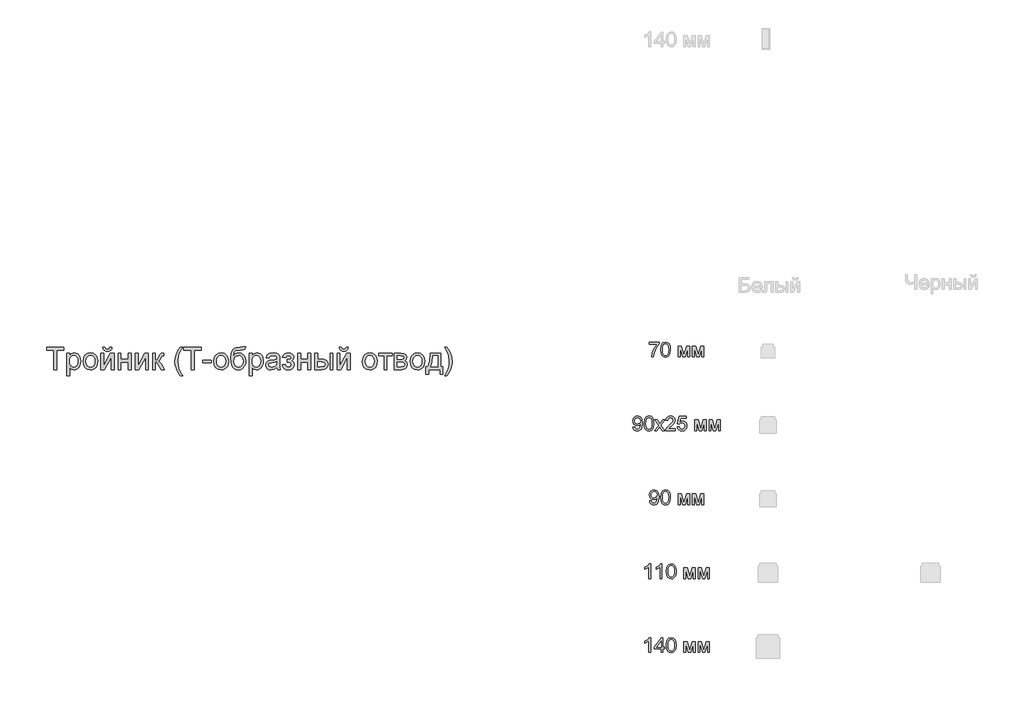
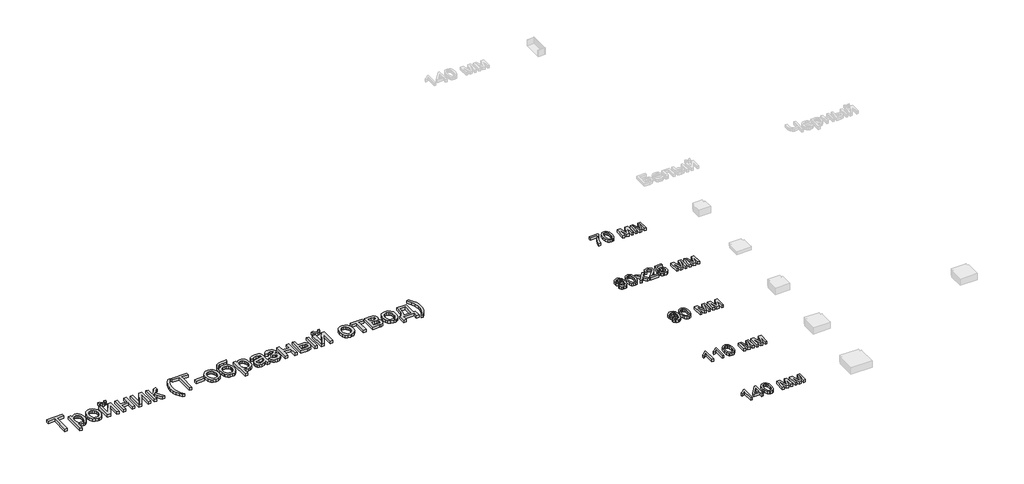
# One storey, part 8 of 48: 6 proxies.
"""IFC4 building model written with IfcOpenShell, lengths in millimetres."""

from ifc_helpers import new_model, si_unit, origin, origin_with_axes, place, context, project, spatial, polyline, outline, extrude, element, save

model = new_model("IFC4")

# Units and contexts
model_context = context("Model", 3, world=origin())
ifc_project = project(units=[si_unit("LENGTHUNIT", "METRE", prefix="MILLI")], contexts=[model_context])

# Site, building, storey
site = spatial("IfcSite", under=ifc_project)
building = spatial("IfcBuilding", under=site)
storey = spatial("IfcBuildingStorey", under=building, Name="Этаж 01", Elevation=0.0)

# Proxies
placement = place(None, origin())
element("IfcBuildingElementProxy", 1, Name="150 мм Arial", ObjectType="150 мм Arial", at=placement, inside=storey, context=model_context, shape_type="SweptSolid", body=[
    extrude(outline(polyline([(8172.5141681, -21751.7435087), (8172.5141681, -21619.8946017), (8123.070828, -21619.8946017), (8123.070828, -21601.0590435), (8240.7930664, -21601.0590435), (8240.7930664, -21619.8946017), (8191.3497263, -21619.8946017), (8191.3497263, -21751.7435087), (8172.5141681, -21751.7435087)])), origin_with_axes(), (0.0, 0.0, 1.0), 20.0),
    extrude(outline(polyline([(8259.6286246, -21794.1235146), (8259.6286246, -21641.0846046), (8278.4641827, -21641.0846046), (8278.4641827, -21659.5522807), (8291.4872054, -21643.93569), (8309.0719647, -21638.7301598), (8321.8098788, -21640.5511757), (8332.9475062, -21646.0142233), (8342.0157974, -21654.7882089), (8348.5457028, -21666.5420386), (8353.8064153, -21695.5679281), (8352.3210918, -21711.6765609), (8347.8651211, -21726.0837396), (8340.5810576, -21738.0582985), (8330.6114555, -21746.8690723), (8319.0001801, -21752.2907332), (8306.7910964, -21754.0979535), (8290.4019535, -21749.2603053), (8278.4641827, -21737.0282289), (8278.4641827, -21794.1235146), (8259.6286246, -21794.1235146)]), holes=[polyline([(8278.4641827, -21697.2969734), (8280.5013293, -21714.182757), (8286.6127689, -21725.9917691), (8295.6304763, -21732.9447388), (8306.3864262, -21735.2623953), (8317.3171199, -21732.8619653), (8326.5647536, -21725.6606753), (8332.8693313, -21713.4194019), (8334.9708572, -21695.8990219), (8332.9199151, -21679.1052088), (8326.7670887, -21667.1306498), (8317.7631769, -21659.9569509), (8307.1589784, -21657.565718), (8296.5133931, -21660.1087023), (8287.1645919, -21667.7376551), (8280.639285, -21680.2134533), (8278.4641827, -21697.2969734)])]), origin_with_axes(), (0.0, 0.0, 1.0), 20.0),
    extrude(outline(polyline([(8370.2875287, -21696.4140566), (8374.3618218, -21669.7334149), (8386.5847011, -21650.9806302), (8401.686257, -21641.7927774), (8419.7676571, -21638.7301598), (8439.5551099, -21642.4595635), (8455.3602401, -21653.6477747), (8465.7207168, -21671.4118766), (8469.174209, -21694.8689523), (8467.6474987, -21713.8976485), (8463.0673679, -21728.383002), (8455.5671737, -21739.2309224), (8445.2802734, -21747.3473189), (8433.0619927, -21752.4102948), (8419.7676571, -21754.0979535), (8399.741081, -21750.3823453), (8383.9543448, -21739.2355209), (8373.7042328, -21721.0989385), (8370.2875287, -21696.4140566)]), holes=[polyline([(8389.1230869, -21696.3772685), (8391.3027877, -21713.4240004), (8397.8418902, -21725.5687048), (8407.6827335, -21732.8389727), (8419.7676571, -21735.2623953), (8431.7973983, -21732.8251771), (8441.6198476, -21725.5135225), (8448.1589501, -21713.2078697), (8450.3386509, -21695.7886573), (8448.1451545, -21679.238566), (8441.5646653, -21667.2594085), (8431.7284204, -21659.9891406), (8419.7676571, -21657.565718), (8407.6827335, -21659.9799436), (8397.8418902, -21667.2226203), (8391.3027877, -21679.3397335), (8389.1230869, -21696.3772685)])]), origin_with_axes(), (0.0, 0.0, 1.0), 20.0),
    extrude(outline(polyline([(8551.5797759, -21601.0590435), (8565.7064446, -21601.0590435), (8562.6668196, -21613.1209744), (8556.564577, -21622.0099231), (8547.6756283, -21627.4867663), (8536.2758849, -21629.3123807), (8523.9058529, -21627.5005619), (8514.3133298, -21622.0651054), (8507.7558333, -21613.1899523), (8504.4908806, -21601.0590435), (8518.6175492, -21601.0590435), (8523.9150499, -21611.6724391), (8534.5836278, -21615.1857121), (8546.2822752, -21611.7828037), (8551.5797759, -21601.0590435)])), origin_with_axes(), (0.0, 0.0, 1.0), 20.0),
    extrude(outline(polyline([(8490.3642119, -21641.0846046), (8509.1997701, -21641.0846046), (8509.1997701, -21725.4767343), (8555.4793251, -21641.0846046), (8579.8331132, -21641.0846046), (8579.8331132, -21751.7435087), (8560.997555, -21751.7435087), (8560.997555, -21667.8664138), (8515.0123056, -21751.7435087), (8490.3642119, -21751.7435087), (8490.3642119, -21641.0846046)])), origin_with_axes(), (0.0, 0.0, 1.0), 20.0),
    extrude(outline(polyline([(8608.0864504, -21641.0846046), (8626.9220086, -21641.0846046), (8626.9220086, -21683.4646104), (8676.3653487, -21683.4646104), (8676.3653487, -21641.0846046), (8695.2009069, -21641.0846046), (8695.2009069, -21751.7435087), (8676.3653487, -21751.7435087), (8676.3653487, -21702.3001686), (8626.9220086, -21702.3001686), (8626.9220086, -21751.7435087), (8608.0864504, -21751.7435087), (8608.0864504, -21641.0846046)])), origin_with_axes(), (0.0, 0.0, 1.0), 20.0),
    extrude(outline(polyline([(8723.4542441, -21641.0846046), (8742.2898022, -21641.0846046), (8742.2898022, -21725.4767343), (8788.5693572, -21641.0846046), (8812.9231453, -21641.0846046), (8812.9231453, -21751.7435087), (8794.0875872, -21751.7435087), (8794.0875872, -21667.8664138), (8748.1023378, -21751.7435087), (8723.4542441, -21751.7435087), (8723.4542441, -21641.0846046)])), origin_with_axes(), (0.0, 0.0, 1.0), 20.0),
    extrude(outline(polyline([(8841.1764825, -21641.0846046), (8860.0120407, -21641.0846046), (8860.0120407, -21688.1735), (8872.6303931, -21684.7889856), (8882.9678772, -21665.0705107), (8891.5579218, -21648.0559684), (8899.1362909, -21642.5193444), (8912.9134716, -21641.0846046), (8916.5187152, -21641.0846046), (8916.5187152, -21660.0305273), (8911.4419436, -21659.9201627), (8902.2448937, -21661.9067255), (8895.7701706, -21674.3043487), (8888.1734074, -21687.7136475), (8877.5232237, -21694.2803411), (8889.4058121, -21701.6103898), (8901.0676714, -21717.0522366), (8921.2276047, -21751.7435087), (8899.8168726, -21751.7435087), (8880.0616094, -21717.7880006), (8870.1287956, -21703.4222087), (8860.0120407, -21699.9457238), (8860.0120407, -21751.7435087), (8841.1764825, -21751.7435087), (8841.1764825, -21641.0846046)])), origin_with_axes(), (0.0, 0.0, 1.0), 20.0),
    extrude(outline(polyline([(9029.5320641, -21794.1235146), (9014.9363459, -21773.6416845), (9002.787043, -21749.9408869), (8994.5924716, -21724.1707532), (8991.8609478, -21697.4809144), (8993.9026928, -21674.0744225), (9000.0279281, -21651.679606), (9012.186428, -21626.3141425), (9029.5320641, -21601.0590435), (9043.6587327, -21601.0590435), (9026.0371851, -21630.8942733), (9015.4421837, -21659.8097981), (9010.6965059, -21697.591279), (9012.7566451, -21721.7381335), (9018.9370626, -21745.8757909), (9029.2377585, -21770.0042513), (9043.6587327, -21794.1235146), (9029.5320641, -21794.1235146)])), origin_with_axes(), (0.0, 0.0, 1.0), 20.0),
    extrude(outline(polyline([(9102.5198519, -21751.7435087), (9102.5198519, -21619.8946017), (9053.0765118, -21619.8946017), (9053.0765118, -21601.0590435), (9170.7987502, -21601.0590435), (9170.7987502, -21619.8946017), (9121.3554101, -21619.8946017), (9121.3554101, -21751.7435087), (9102.5198519, -21751.7435087)])), origin_with_axes(), (0.0, 0.0, 1.0), 20.0),
    extrude(outline(polyline([(9180.2165293, -21707.0090581), (9180.2165293, -21688.1735), (9239.0776485, -21688.1735), (9239.0776485, -21707.0090581), (9180.2165293, -21707.0090581)])), origin_with_axes(), (0.0, 0.0, 1.0), 20.0),
    extrude(outline(polyline([(9255.5587619, -21696.4140566), (9259.633055, -21669.7334149), (9271.8559343, -21650.9806302), (9286.9574902, -21641.7927774), (9305.0388903, -21638.7301598), (9324.8263431, -21642.4595635), (9340.6314733, -21653.6477747), (9350.99195, -21671.4118766), (9354.4454422, -21694.8689523), (9352.9187319, -21713.8976485), (9348.3386011, -21728.383002), (9340.8384069, -21739.2309224), (9330.5515066, -21747.3473189), (9318.3332259, -21752.4102948), (9305.0388903, -21754.0979535), (9285.0123142, -21750.3823453), (9269.225578, -21739.2355209), (9258.9754659, -21721.0989385), (9255.5587619, -21696.4140566)]), holes=[polyline([(9274.3943201, -21696.3772685), (9276.5740209, -21713.4240004), (9283.1131234, -21725.5687048), (9292.9539667, -21732.8389727), (9305.0388903, -21735.2623953), (9317.0686315, -21732.8251771), (9326.8910808, -21725.5135225), (9333.4301832, -21713.2078697), (9335.6098841, -21695.7886573), (9333.4163877, -21679.238566), (9326.8358985, -21667.2594085), (9316.9996536, -21659.9891406), (9305.0388903, -21657.565718), (9292.9539667, -21659.9799436), (9283.1131234, -21667.2226203), (9276.5740209, -21679.3397335), (9274.3943201, -21696.3772685)])]), origin_with_axes(), (0.0, 0.0, 1.0), 20.0),
    extrude(outline(polyline([(9453.3321225, -21598.7045987), (9469.8132359, -21598.7045987), (9464.9571936, -21613.4014844), (9455.3554735, -21618.7173793), (9432.2892724, -21619.8946017), (9401.2216379, -21624.2356092), (9394.0939243, -21629.8825978), (9389.3022613, -21638.1415486), (9385.2739534, -21662.7528541), (9401.5895199, -21644.7266363), (9411.5085382, -21640.2292789), (9422.6139759, -21638.7301598), (9442.2128892, -21642.542337), (9458.1145885, -21653.9788685), (9468.6544076, -21671.9177143), (9472.1676807, -21695.2368343), (9470.4248397, -21713.2170668), (9465.1963169, -21727.647238), (9448.6600212, -21747.2001661), (9437.3660439, -21752.3735066), (9422.6139759, -21754.0979535), (9405.6132292, -21751.8768659), (9392.8707166, -21745.2136033), (9383.4943243, -21735.0876514), (9376.5919383, -21722.478496), (9372.3429013, -21703.4911865), (9370.9265556, -21674.2307723), (9374.4996095, -21638.0909648), (9385.2187711, -21616.0502348), (9403.350755, -21604.8068413), (9429.1622754, -21601.0590435), (9450.1315492, -21600.6359792), (9453.3321225, -21598.7045987)]), holes=[polyline([(9453.3321225, -21694.6482231), (9451.2903775, -21679.8271772), (9445.1651422, -21667.9583843), (9435.3242989, -21660.1638846), (9422.1357293, -21657.565718), (9408.3861398, -21660.3110373), (9398.1866114, -21668.5469955), (9391.8682382, -21681.3722816), (9389.7621138, -21697.8855846), (9392.0889674, -21713.8930499), (9399.0695282, -21725.6422812), (9409.4621946, -21732.8573668), (9422.0253647, -21735.2623953), (9434.6529142, -21732.4802878), (9444.6501074, -21724.133965), (9451.1616188, -21711.1983143), (9453.3321225, -21694.6482231)])]), origin_with_axes(), (0.0, 0.0, 1.0), 20.0),
    extrude(outline(polyline([(9495.7121284, -21794.1235146), (9495.7121284, -21641.0846046), (9514.5476865, -21641.0846046), (9514.5476865, -21659.5522807), (9527.5707092, -21643.93569), (9545.1554685, -21638.7301598), (9557.8933826, -21640.5511757), (9569.03101, -21646.0142233), (9578.0993012, -21654.7882089), (9584.6292066, -21666.5420386), (9589.8899191, -21695.5679281), (9588.4045956, -21711.6765609), (9583.9486249, -21726.0837396), (9576.6645614, -21738.0582985), (9566.6949593, -21746.8690723), (9555.0836839, -21752.2907332), (9542.8746001, -21754.0979535), (9526.4854573, -21749.2603053), (9514.5476865, -21737.0282289), (9514.5476865, -21794.1235146), (9495.7121284, -21794.1235146)]), holes=[polyline([(9514.5476865, -21697.2969734), (9516.5848331, -21714.182757), (9522.6962727, -21725.9917691), (9531.7139801, -21732.9447388), (9542.46993, -21735.2623953), (9553.4006237, -21732.8619653), (9562.6482574, -21725.6606753), (9568.9528351, -21713.4194019), (9571.054361, -21695.8990219), (9569.0034189, -21679.1052088), (9562.8505925, -21667.1306498), (9553.8466807, -21659.9569509), (9543.2424821, -21657.565718), (9532.5968969, -21660.1087023), (9523.2480957, -21667.7376551), (9516.7227888, -21680.2134533), (9514.5476865, -21697.2969734)])]), origin_with_axes(), (0.0, 0.0, 1.0), 20.0),
    extrude(outline(polyline([(9681.7132651, -21737.6168401), (9663.4479241, -21750.3823453), (9643.2695966, -21754.0979535), (9627.5288458, -21751.8630704), (9615.9175703, -21745.158421), (9608.757667, -21734.9772868), (9606.3710325, -21722.3129491), (9609.9762761, -21707.4137283), (9619.4492374, -21696.5979976), (9632.637807, -21690.4175801), (9648.9349794, -21687.5848888), (9681.6029005, -21681.1101657), (9681.7132651, -21676.9163109), (9680.4164811, -21668.5102073), (9676.526129, -21663.0103715), (9667.8257198, -21658.9268813), (9655.7040081, -21657.565718), (9636.6477207, -21661.1893556), (9627.5610354, -21674.0468313), (9608.7254773, -21671.6923866), (9616.8740635, -21653.2982868), (9633.2816005, -21642.5193444), (9658.1320292, -21638.7301598), (9680.959107, -21642.077886), (9693.853371, -21650.4839896), (9699.6291183, -21663.2678889), (9700.5488233, -21679.7490023), (9700.5488233, -21703.1830854), (9701.5053165, -21735.9061888), (9705.2577128, -21751.7435087), (9686.4221547, -21751.7435087), (9681.7132651, -21737.6168401)]), holes=[polyline([(9681.7132651, -21699.9457238), (9651.3262123, -21705.7214711), (9635.1210104, -21708.7748917), (9627.7817646, -21713.7412986), (9625.2065907, -21720.9885739), (9630.8167911, -21731.1789052), (9647.2795104, -21735.2623953), (9666.3357977, -21730.7558409), (9678.6230564, -21719.8481397), (9681.6029005, -21705.2800127), (9681.7132651, -21699.9457238)])]), origin_with_axes(), (0.0, 0.0, 1.0), 20.0),
    extrude(outline(polyline([(9752.3466082, -21702.3001686), (9752.3466082, -21683.4646104), (9767.2090408, -21682.7288464), (9774.7138335, -21678.8109032), (9778.2455007, -21670.6255288), (9773.518217, -21661.1157792), (9761.3229289, -21657.565718), (9748.7229706, -21661.0973851), (9740.5743844, -21671.6923866), (9719.3843814, -21669.3379418), (9725.0037789, -21655.9470372), (9733.5478382, -21646.3821053), (9745.0165594, -21640.6431462), (9759.4099425, -21638.7301598), (9775.1552919, -21641.061612), (9787.0746685, -21648.0559684), (9794.5794612, -21658.2876864), (9797.0810588, -21670.3312232), (9793.5218005, -21682.0298706), (9782.8440256, -21691.0797677), (9795.2968311, -21702.8152034), (9799.4355036, -21719.7009869), (9796.8097458, -21733.5655396), (9788.9324726, -21744.5514157), (9776.3371128, -21751.711319), (9759.5570953, -21754.0979535), (9743.1449598, -21751.8906615), (9730.5863882, -21745.2687856), (9721.8813805, -21734.2323258), (9717.0299367, -21718.781282), (9738.2199396, -21716.4268372), (9746.7180137, -21730.3327766), (9761.3597171, -21735.2623953), (9775.1185037, -21730.5351117), (9780.5999454, -21718.4501882), (9777.197037, -21708.5541625), (9769.9497617, -21703.2566618), (9756.0254282, -21702.189804), (9752.3466082, -21702.3001686)])), origin_with_axes(), (0.0, 0.0, 1.0), 20.0),
    extrude(outline(polyline([(9822.9799513, -21641.0846046), (9841.8155094, -21641.0846046), (9841.8155094, -21683.4646104), (9891.2588496, -21683.4646104), (9891.2588496, -21641.0846046), (9910.0944077, -21641.0846046), (9910.0944077, -21751.7435087), (9891.2588496, -21751.7435087), (9891.2588496, -21702.3001686), (9841.8155094, -21702.3001686), (9841.8155094, -21751.7435087), (9822.9799513, -21751.7435087), (9822.9799513, -21641.0846046)])), origin_with_axes(), (0.0, 0.0, 1.0), 20.0),
    extrude(outline(polyline([(10041.9433148, -21641.0846046), (10060.778873, -21641.0846046), (10060.778873, -21751.7435087), (10041.9433148, -21751.7435087), (10041.9433148, -21641.0846046)])), origin_with_axes(), (0.0, 0.0, 1.0), 20.0),
    extrude(outline(polyline([(9938.347745, -21641.0846046), (9957.1833031, -21641.0846046), (9957.1833031, -21681.1101657), (9980.4702334, -21681.1101657), (10000.5979771, -21683.4692089), (10015.5109935, -21690.5463388), (10024.740233, -21701.7713382), (10027.8166462, -21716.57399), (10025.2368737, -21730.0522666), (10017.4975562, -21741.4244188), (10004.092856, -21749.1637362), (9984.5169354, -21751.7435087), (9938.347745, -21751.7435087), (9938.347745, -21641.0846046)]), holes=[polyline([(9957.1833031, -21732.9079506), (9976.5338961, -21732.9079506), (10001.5130835, -21728.9532191), (10007.1140869, -21723.8902432), (10008.981088, -21716.6107782), (10003.444464, -21705.0224953), (9994.5647124, -21701.2149167), (9978.9987054, -21699.9457238), (9957.1833031, -21699.9457238), (9957.1833031, -21732.9079506)])]), origin_with_axes(), (0.0, 0.0, 1.0), 20.0),
    extrude(outline(polyline([(10089.0322102, -21641.0846046), (10107.8677683, -21641.0846046), (10107.8677683, -21725.4767343), (10154.1473233, -21641.0846046), (10178.5011114, -21641.0846046), (10178.5011114, -21751.7435087), (10159.6655533, -21751.7435087), (10159.6655533, -21667.8664138), (10113.6803039, -21751.7435087), (10089.0322102, -21751.7435087), (10089.0322102, -21641.0846046)])), origin_with_axes(), (0.0, 0.0, 1.0), 20.0),
    extrude(outline(polyline([(10150.2477742, -21601.0590435), (10164.3744428, -21601.0590435), (10161.3348178, -21613.1209744), (10155.2325752, -21622.0099231), (10146.3436265, -21627.4867663), (10134.9438832, -21629.3123807), (10122.5738511, -21627.5005619), (10112.9813281, -21622.0651054), (10106.4238315, -21613.1899523), (10103.1588788, -21601.0590435), (10117.2855474, -21601.0590435), (10122.5830481, -21611.6724391), (10133.251626, -21615.1857121), (10144.9502735, -21611.7828037), (10150.2477742, -21601.0590435)])), origin_with_axes(), (0.0, 0.0, 1.0), 20.0),
    extrude(outline(polyline([(10260.9066783, -21696.4140566), (10264.9809714, -21669.7334149), (10277.2038507, -21650.9806302), (10292.3054066, -21641.7927774), (10310.3868067, -21638.7301598), (10330.1742595, -21642.4595635), (10345.9793897, -21653.6477747), (10356.3398664, -21671.4118766), (10359.7933586, -21694.8689523), (10358.2666484, -21713.8976485), (10353.6865175, -21728.383002), (10346.1863233, -21739.2309224), (10335.8994231, -21747.3473189), (10323.6811423, -21752.4102948), (10310.3868067, -21754.0979535), (10290.3602306, -21750.3823453), (10274.5734945, -21739.2355209), (10264.3233824, -21721.0989385), (10260.9066783, -21696.4140566)]), holes=[polyline([(10279.7422365, -21696.3772685), (10281.9219373, -21713.4240004), (10288.4610398, -21725.5687048), (10298.3018831, -21732.8389727), (10310.3868067, -21735.2623953), (10322.4165479, -21732.8251771), (10332.2389972, -21725.5135225), (10338.7780997, -21713.2078697), (10340.9578005, -21695.7886573), (10338.7643041, -21679.238566), (10332.1838149, -21667.2594085), (10322.3475701, -21659.9891406), (10310.3868067, -21657.565718), (10298.3018831, -21659.9799436), (10288.4610398, -21667.2226203), (10281.9219373, -21679.3397335), (10279.7422365, -21696.3772685)])]), origin_with_axes(), (0.0, 0.0, 1.0), 20.0),
    extrude(outline(polyline([(10371.5655825, -21641.0846046), (10461.0344837, -21641.0846046), (10461.0344837, -21659.9201627), (10425.7178122, -21659.9201627), (10425.7178122, -21751.7435087), (10406.882254, -21751.7435087), (10406.882254, -21659.9201627), (10371.5655825, -21659.9201627), (10371.5655825, -21641.0846046)])), origin_with_axes(), (0.0, 0.0, 1.0), 20.0),
    extrude(outline(polyline([(10477.5155971, -21641.0846046), (10519.0126862, -21641.0846046), (10541.7661876, -21643.6045962), (10554.568481, -21652.8384343), (10559.921164, -21668.9332716), (10556.6838025, -21682.0114765), (10546.9349296, -21691.3372851), (10559.5900702, -21701.5460105), (10564.6300536, -21719.2963167), (10561.4386772, -21733.6529116), (10553.8511111, -21743.7604694), (10541.839764, -21749.7477489), (10525.3770447, -21751.7435087), (10477.5155971, -21751.7435087), (10477.5155971, -21641.0846046)]), holes=[polyline([(10496.3511552, -21683.4646104), (10514.9659842, -21683.4646104), (10530.3250575, -21682.5081172), (10537.793062, -21678.6821445), (10541.0856059, -21671.765963), (10539.641669, -21666.1465655), (10535.3098585, -21662.5321249), (10515.5545954, -21659.9201627), (10496.3511552, -21659.9201627), (10496.3511552, -21683.4646104)]), polyline([(10496.3511552, -21732.9079506), (10519.4541445, -21732.9079506), (10539.9451717, -21729.5050421), (10544.1850117, -21724.8651305), (10545.7944954, -21717.7512124), (10542.5755279, -21708.6829212), (10534.1878185, -21703.4038146), (10517.6147346, -21702.3001686), (10496.3511552, -21702.3001686), (10496.3511552, -21732.9079506)])]), origin_with_axes(), (0.0, 0.0, 1.0), 20.0),
    extrude(outline(polyline([(10583.4656117, -21696.4140566), (10587.5399048, -21669.7334149), (10599.7627841, -21650.9806302), (10614.86434, -21641.7927774), (10632.9457401, -21638.7301598), (10652.7331929, -21642.4595635), (10668.5383231, -21653.6477747), (10678.8987998, -21671.4118766), (10682.352292, -21694.8689523), (10680.8255817, -21713.8976485), (10676.2454509, -21728.383002), (10668.7452567, -21739.2309224), (10658.4583564, -21747.3473189), (10646.2400757, -21752.4102948), (10632.9457401, -21754.0979535), (10612.9191639, -21750.3823453), (10597.1324278, -21739.2355209), (10586.8823157, -21721.0989385), (10583.4656117, -21696.4140566)]), holes=[polyline([(10602.3011699, -21696.3772685), (10604.4808707, -21713.4240004), (10611.0199731, -21725.5687048), (10620.8608165, -21732.8389727), (10632.9457401, -21735.2623953), (10644.9754813, -21732.8251771), (10654.7979306, -21725.5135225), (10661.337033, -21713.2078697), (10663.5167339, -21695.7886573), (10661.3232375, -21679.238566), (10654.7427483, -21667.2594085), (10644.9065034, -21659.9891406), (10632.9457401, -21657.565718), (10620.8608165, -21659.9799436), (10611.0199731, -21667.2226203), (10604.4808707, -21679.3397335), (10602.3011699, -21696.3772685)])]), origin_with_axes(), (0.0, 0.0, 1.0), 20.0),
    extrude(outline(polyline([(10720.0234083, -21641.0846046), (10790.6567514, -21641.0846046), (10790.6567514, -21732.9079506), (10804.78342, -21732.9079506), (10804.78342, -21782.3512907), (10785.9478619, -21782.3512907), (10785.9478619, -21751.7435087), (10708.2511845, -21751.7435087), (10708.2511845, -21782.3512907), (10689.4156263, -21782.3512907), (10689.4156263, -21732.9079506), (10701.1878502, -21732.9079506), (10709.7457051, -21717.4431112), (10715.7375831, -21696.9842737), (10720.0234083, -21641.0846046)]), holes=[polyline([(10736.5045217, -21659.9201627), (10732.0899378, -21702.8335975), (10722.3778531, -21732.9079506), (10771.8211932, -21732.9079506), (10771.8211932, -21659.9201627), (10736.5045217, -21659.9201627)])]), origin_with_axes(), (0.0, 0.0, 1.0), 20.0),
    extrude(outline(polyline([(10830.6823125, -21794.1235146), (10816.5556439, -21794.1235146), (10830.9766181, -21770.0042513), (10841.2773139, -21745.8757909), (10847.4577314, -21721.7381335), (10849.5178706, -21697.591279), (10844.7721929, -21660.1408919), (10834.287556, -21631.1885789), (10816.5556439, -21601.0590435), (10830.6823125, -21601.0590435), (10848.0279485, -21626.3141425), (10860.1864485, -21651.679606), (10866.3116837, -21674.0744225), (10868.3534288, -21697.4809144), (10865.6081094, -21724.1707532), (10857.3721512, -21749.9408869), (10845.2090528, -21773.6416845), (10830.6823125, -21794.1235146)])), origin_with_axes(), (0.0, 0.0, 1.0), 20.0),
])
element("IfcBuildingElementProxy", 2, Name="100 мм Arial", ObjectType="100 мм Arial", at=placement, inside=storey, context=model_context, shape_type="SweptSolid", body=[
    extrude(outline(polyline([(12202.0597089, -21580.1192443), (12202.0597089, -21567.5622055), (12267.9841625, -21567.5622055), (12267.9841625, -21577.7157486), (12249.2834944, -21604.7305498), (12234.9728848, -21639.1520418), (12230.3130462, -21666.4488858), (12217.7560074, -21666.4488858), (12222.7469398, -21638.1219722), (12236.4444127, -21606.1039759), (12255.4271237, -21580.1192443), (12202.0597089, -21580.1192443)])), origin_with_axes(), (0.0, 0.0, 1.0), 20.0),
    extrude(outline(polyline([(12278.9715714, -21617.0300711), (12282.6626541, -21588.126809), (12293.6255375, -21571.4617547), (12311.9337982, -21565.9925757), (12326.600027, -21569.2299372), (12336.7290446, -21578.5618772), (12342.6151566, -21593.4243098), (12344.8960249, -21617.0300711), (12341.2417304, -21645.8107059), (12330.3156352, -21662.5125485), (12322.0842755, -21666.6420239), (12311.9337982, -21668.0185157), (12298.8862501, -21665.6272827), (12288.9779617, -21658.4535838), (12281.473169, -21641.463567), (12278.9715714, -21617.0300711)]), holes=[polyline([(12291.5286102, -21617.0055457), (12293.0001381, -21636.7577431), (12297.4147221, -21648.1896761), (12303.9875471, -21653.6435267), (12311.9337982, -21655.4614769), (12319.8800493, -21653.6373953), (12326.4528742, -21648.1651507), (12330.8674582, -21636.7270863), (12332.3389862, -21617.0055457), (12330.9165091, -21597.6978723), (12326.649078, -21586.1770345), (12320.0885157, -21580.4564694), (12311.7866454, -21578.5496144), (12303.9262334, -21580.2296089), (12297.6109258, -21585.2695922), (12293.0491891, -21597.5077999), (12291.5286102, -21617.0055457)])]), origin_with_axes(), (0.0, 0.0, 1.0), 20.0),
    extrude(outline(polyline([(12398.2634397, -21592.6762831), (12419.8703755, -21592.6762831), (12436.5231672, -21651.733606), (12454.4758086, -21592.6762831), (12475.1753022, -21592.6762831), (12475.1753022, -21666.4488858), (12462.6182634, -21666.4488858), (12462.6182634, -21607.0482063), (12444.5675202, -21666.4488858), (12428.0864068, -21666.4488858), (12410.8204785, -21604.2032522), (12410.8204785, -21666.4488858), (12398.2634397, -21666.4488858), (12398.2634397, -21592.6762831)])), origin_with_axes(), (0.0, 0.0, 1.0), 20.0),
    extrude(outline(polyline([(12494.0108603, -21592.6762831), (12515.6177962, -21592.6762831), (12532.2705878, -21651.733606), (12550.2232292, -21592.6762831), (12570.9227228, -21592.6762831), (12570.9227228, -21666.4488858), (12558.365684, -21666.4488858), (12558.365684, -21607.0482063), (12540.3149408, -21666.4488858), (12523.8338274, -21666.4488858), (12506.5678991, -21604.2032522), (12506.5678991, -21666.4488858), (12494.0108603, -21666.4488858), (12494.0108603, -21592.6762831)])), origin_with_axes(), (0.0, 0.0, 1.0), 20.0),
])
element("IfcBuildingElementProxy", 3, Name="100 мм Arial", ObjectType="100 мм Arial", at=placement, inside=storey, context=model_context, shape_type="SweptSolid", body=[
    extrude(outline(polyline([(12091.4008048, -22141.3348083), (12103.9578436, -22139.7651784), (12109.5987008, -22151.7458687), (12120.2918041, -22155.4614769), (12130.4576099, -22153.0702439), (12137.349266, -22146.6813599), (12141.4572816, -22135.7675274), (12143.2721661, -22121.1994004), (12143.1985897, -22118.7468538), (12133.1554112, -22128.2627347), (12119.3843619, -22131.9170292), (12107.9340348, -22129.6852118), (12098.4028254, -22122.9897595), (12091.9740876, -22112.646144), (12089.8311749, -22099.4698372), (12092.0783208, -22085.8582034), (12098.8197584, -22075.1896256), (12108.9457103, -22068.2918381), (12121.3463992, -22065.9925757), (12139.2377269, -22071.2410255), (12151.549511, -22086.2015599), (12155.7556285, -22114.3077444), (12151.5617737, -22144.8051618), (12146.3470464, -22154.7962236), (12139.0905741, -22162.0833528), (12130.1050564, -22166.534725), (12119.7031929, -22168.0185157), (12108.9671701, -22166.2680105), (12100.4016509, -22161.016495), (12094.4113058, -22152.595063), (12091.4008048, -22141.3348083)]), holes=[polyline([(12143.1985897, -22099.1755316), (12141.8435577, -22090.6651948), (12137.7784616, -22084.1168953), (12131.4692854, -22079.9414347), (12123.3820129, -22078.5496144), (12114.9943034, -22080.0487336), (12108.2743256, -22084.546091), (12103.8597417, -22091.42855), (12102.3882137, -22100.0829739), (12103.7800339, -22107.8422183), (12107.9554946, -22114.001176), (12114.5099254, -22118.0202868), (12123.0386564, -22119.3599904), (12137.5209442, -22114.001176), (12141.7791783, -22107.6153577), (12143.1985897, -22099.1755316)])]), origin_with_axes(), (0.0, 0.0, 1.0), 20.0),
    extrude(outline(polyline([(12166.7430374, -22117.0300711), (12170.4341201, -22088.126809), (12181.3970035, -22071.4617547), (12199.7052642, -22065.9925757), (12214.371493, -22069.2299372), (12224.5005106, -22078.5618772), (12230.3866226, -22093.4243098), (12232.6674909, -22117.0300711), (12229.0131964, -22145.8107059), (12218.0871012, -22162.5125485), (12209.8557415, -22166.6420239), (12199.7052642, -22168.0185157), (12186.6577161, -22165.6272827), (12176.7494277, -22158.4535838), (12169.244635, -22141.463567), (12166.7430374, -22117.0300711)]), holes=[polyline([(12179.3000762, -22117.0055457), (12180.7716041, -22136.7577431), (12185.1861881, -22148.1896761), (12191.7590131, -22153.6435267), (12199.7052642, -22155.4614769), (12207.6515153, -22153.6373953), (12214.2243402, -22148.1651507), (12218.6389242, -22136.7270863), (12220.1104522, -22117.0055457), (12218.6879751, -22097.6978723), (12214.420544, -22086.1770345), (12207.8599817, -22080.4564694), (12199.5581114, -22078.5496144), (12191.6976994, -22080.2296089), (12185.3823918, -22085.2695922), (12180.8206551, -22097.5077999), (12179.3000762, -22117.0055457)])]), origin_with_axes(), (0.0, 0.0, 1.0), 20.0),
    extrude(outline(polyline([(12238.9460103, -22166.4488858), (12265.7768705, -22129.3663807), (12240.5156402, -22092.6762831), (12255.6233274, -22092.6762831), (12267.8124842, -22110.3346188), (12273.5023924, -22118.6732774), (12278.4320111, -22111.8551977), (12292.3134251, -22092.6762831), (12307.4211124, -22092.6762831), (12280.8845578, -22129.3663807), (12306.4400937, -22166.4488858), (12291.3324064, -22166.4488858), (12275.954939, -22144.1552369), (12273.1345104, -22140.0840095), (12254.0536976, -22166.4488858), (12238.9460103, -22166.4488858)])), origin_with_axes(), (0.0, 0.0, 1.0), 20.0),
    extrude(outline(polyline([(12378.6430666, -22153.8918471), (12378.6430666, -22166.4488858), (12312.7186131, -22166.4488858), (12314.0675137, -22157.7913962), (12321.6949338, -22144.4618052), (12337.4157577, -22129.905941), (12359.0962699, -22108.9857182), (12364.516398, -22094.7609477), (12359.4028383, -22083.2462412), (12346.0487218, -22078.5496144), (12332.1305197, -22083.1358766), (12326.8452817, -22095.8155427), (12314.2882429, -22094.2459129), (12317.3324664, -22082.0996757), (12323.9144885, -22073.2275882), (12333.6909525, -22067.8013288), (12346.318502, -22065.9925757), (12359.038022, -22068.0036639), (12368.7960919, -22074.0369286), (12375.0041005, -22083.0500375), (12377.0734368, -22094.0006582), (12374.8416193, -22105.9077721), (12367.4226658, -22118.2195563), (12349.4332362, -22135.4241709), (12334.9877365, -22147.5029631), (12329.3223538, -22153.8918471), (12378.6430666, -22153.8918471)])), origin_with_axes(), (0.0, 0.0, 1.0), 20.0),
    extrude(outline(polyline([(12391.2001054, -22139.7651784), (12403.7571442, -22138.1955486), (12410.0847145, -22151.1327321), (12423.205839, -22155.4614769), (12432.2066851, -22153.9562264), (12438.9511884, -22149.4404749), (12443.1634372, -22142.4353886), (12444.5675202, -22133.4621336), (12439.3068076, -22118.55065), (12432.7002601, -22114.4487658), (12423.4020427, -22113.0814711), (12412.3778456, -22115.2642376), (12405.326774, -22120.9296203), (12392.7697352, -22119.3599904), (12403.7571442, -22067.5622055), (12452.4156694, -22067.5622055), (12452.4156694, -22080.1192443), (12413.9106872, -22080.1192443), (12408.5396101, -22107.7839703), (12417.5097994, -22102.3393168), (12426.9091844, -22100.5244323), (12438.6415543, -22102.7746438), (12448.3812302, -22109.5252784), (12454.9387267, -22119.8137116), (12457.1245589, -22132.6773187), (12455.1563902, -22145.2343574), (12449.2518842, -22155.9765117), (12437.9456442, -22165.0080147), (12423.156788, -22168.0185157), (12410.8235441, -22166.0840695), (12400.9980292, -22160.280731), (12394.262723, -22151.2829506), (12391.2001054, -22139.7651784)])), origin_with_axes(), (0.0, 0.0, 1.0), 20.0),
    extrude(outline(polyline([(12510.4919737, -22092.6762831), (12532.0989095, -22092.6762831), (12548.7517012, -22151.733606), (12566.7043426, -22092.6762831), (12587.4038361, -22092.6762831), (12587.4038361, -22166.4488858), (12574.8467974, -22166.4488858), (12574.8467974, -22107.0482063), (12556.7960541, -22166.4488858), (12540.3149408, -22166.4488858), (12523.0490125, -22104.2032522), (12523.0490125, -22166.4488858), (12510.4919737, -22166.4488858), (12510.4919737, -22092.6762831)])), origin_with_axes(), (0.0, 0.0, 1.0), 20.0),
    extrude(outline(polyline([(12606.2393943, -22092.6762831), (12627.8463301, -22092.6762831), (12644.4991218, -22151.733606), (12662.4517632, -22092.6762831), (12683.1512568, -22092.6762831), (12683.1512568, -22166.4488858), (12670.594218, -22166.4488858), (12670.594218, -22107.0482063), (12652.5434748, -22166.4488858), (12636.0623614, -22166.4488858), (12618.7964331, -22104.2032522), (12618.7964331, -22166.4488858), (12606.2393943, -22166.4488858), (12606.2393943, -22092.6762831)])), origin_with_axes(), (0.0, 0.0, 1.0), 20.0),
])
element("IfcBuildingElementProxy", 4, Name="100 мм Arial", ObjectType="100 мм Arial", at=placement, inside=storey, context=model_context, shape_type="SweptSolid", body=[
    extrude(outline(polyline([(12203.6293388, -22641.3348083), (12216.1863775, -22639.7651784), (12221.8272348, -22651.7458687), (12232.5203381, -22655.4614769), (12242.6861439, -22653.0702439), (12249.5778, -22646.6813599), (12253.6858156, -22635.7675274), (12255.5007001, -22621.1994004), (12255.4271237, -22618.7468538), (12245.3839452, -22628.2627347), (12231.6128959, -22631.9170292), (12220.1625688, -22629.6852118), (12210.6313594, -22622.9897595), (12204.2026216, -22612.646144), (12202.0597089, -22599.4698372), (12204.3068548, -22585.8582034), (12211.0482923, -22575.1896256), (12221.1742443, -22568.2918381), (12233.5749332, -22565.9925757), (12251.4662609, -22571.2410255), (12263.778045, -22586.2015599), (12267.9841625, -22614.3077444), (12263.7903077, -22644.8051618), (12258.5755804, -22654.7962236), (12251.3191081, -22662.0833528), (12242.3335904, -22666.534725), (12231.9317269, -22668.0185157), (12221.195704, -22666.2680105), (12212.6301849, -22661.016495), (12206.6398398, -22652.595063), (12203.6293388, -22641.3348083)]), holes=[polyline([(12255.4271237, -22599.1755316), (12254.0720917, -22590.6651948), (12250.0069956, -22584.1168953), (12243.6978194, -22579.9414347), (12235.6105469, -22578.5496144), (12227.2228374, -22580.0487336), (12220.5028596, -22584.546091), (12216.0882757, -22591.42855), (12214.6167477, -22600.0829739), (12216.0085679, -22607.8422183), (12220.1840286, -22614.001176), (12226.7384594, -22618.0202868), (12235.2671904, -22619.3599904), (12249.7494782, -22614.001176), (12254.0077123, -22607.6153577), (12255.4271237, -22599.1755316)])]), origin_with_axes(), (0.0, 0.0, 1.0), 20.0),
    extrude(outline(polyline([(12278.9715714, -22617.0300711), (12282.6626541, -22588.126809), (12293.6255375, -22571.4617547), (12311.9337982, -22565.9925757), (12326.600027, -22569.2299372), (12336.7290446, -22578.5618772), (12342.6151566, -22593.4243098), (12344.8960249, -22617.0300711), (12341.2417304, -22645.8107059), (12330.3156352, -22662.5125485), (12322.0842755, -22666.6420239), (12311.9337982, -22668.0185157), (12298.8862501, -22665.6272827), (12288.9779617, -22658.4535838), (12281.473169, -22641.463567), (12278.9715714, -22617.0300711)]), holes=[polyline([(12291.5286102, -22617.0055457), (12293.0001381, -22636.7577431), (12297.4147221, -22648.1896761), (12303.9875471, -22653.6435267), (12311.9337982, -22655.4614769), (12319.8800493, -22653.6373953), (12326.4528742, -22648.1651507), (12330.8674582, -22636.7270863), (12332.3389862, -22617.0055457), (12330.9165091, -22597.6978723), (12326.649078, -22586.1770345), (12320.0885157, -22580.4564694), (12311.7866454, -22578.5496144), (12303.9262334, -22580.2296089), (12297.6109258, -22585.2695922), (12293.0491891, -22597.5077999), (12291.5286102, -22617.0055457)])]), origin_with_axes(), (0.0, 0.0, 1.0), 20.0),
    extrude(outline(polyline([(12398.2634397, -22592.6762831), (12419.8703755, -22592.6762831), (12436.5231672, -22651.733606), (12454.4758086, -22592.6762831), (12475.1753022, -22592.6762831), (12475.1753022, -22666.4488858), (12462.6182634, -22666.4488858), (12462.6182634, -22607.0482063), (12444.5675202, -22666.4488858), (12428.0864068, -22666.4488858), (12410.8204785, -22604.2032522), (12410.8204785, -22666.4488858), (12398.2634397, -22666.4488858), (12398.2634397, -22592.6762831)])), origin_with_axes(), (0.0, 0.0, 1.0), 20.0),
    extrude(outline(polyline([(12494.0108603, -22592.6762831), (12515.6177962, -22592.6762831), (12532.2705878, -22651.733606), (12550.2232292, -22592.6762831), (12570.9227228, -22592.6762831), (12570.9227228, -22666.4488858), (12558.365684, -22666.4488858), (12558.365684, -22607.0482063), (12540.3149408, -22666.4488858), (12523.8338274, -22666.4488858), (12506.5678991, -22604.2032522), (12506.5678991, -22666.4488858), (12494.0108603, -22666.4488858), (12494.0108603, -22592.6762831)])), origin_with_axes(), (0.0, 0.0, 1.0), 20.0),
])
element("IfcBuildingElementProxy", 5, Name="100 мм Arial", ObjectType="100 мм Arial", at=placement, inside=storey, context=model_context, shape_type="SweptSolid", body=[
    extrude(outline(polyline([(12210.6926731, -23166.4488858), (12198.1356343, -23166.4488858), (12198.1356343, -23088.1635972), (12186.2407831, -23096.6371459), (12173.0215568, -23102.9769789), (12173.0215568, -23091.1066532), (12191.4279193, -23079.3589548), (12202.5992692, -23065.9925757), (12210.6926731, -23065.9925757), (12210.6926731, -23166.4488858)])), origin_with_axes(), (0.0, 0.0, 1.0), 20.0),
    extrude(outline(polyline([(12287.6045355, -23166.4488858), (12275.0474968, -23166.4488858), (12275.0474968, -23088.1635972), (12263.1526456, -23096.6371459), (12249.9334192, -23102.9769789), (12249.9334192, -23091.1066532), (12268.3397817, -23079.3589548), (12279.5111316, -23065.9925757), (12287.6045355, -23065.9925757), (12287.6045355, -23166.4488858)])), origin_with_axes(), (0.0, 0.0, 1.0), 20.0),
    extrude(outline(polyline([(12317.4275026, -23117.0300711), (12321.1185853, -23088.126809), (12332.0814688, -23071.4617547), (12350.3897294, -23065.9925757), (12365.0559583, -23069.2299372), (12375.1849759, -23078.5618772), (12381.0710878, -23093.4243098), (12383.3519562, -23117.0300711), (12379.6976617, -23145.8107059), (12368.7715664, -23162.5125485), (12360.5402068, -23166.6420239), (12350.3897294, -23168.0185157), (12337.3421813, -23165.6272827), (12327.4338929, -23158.4535838), (12319.9291002, -23141.463567), (12317.4275026, -23117.0300711)]), holes=[polyline([(12329.9845414, -23117.0055457), (12331.4560694, -23136.7577431), (12335.8706533, -23148.1896761), (12342.4434783, -23153.6435267), (12350.3897294, -23155.4614769), (12358.3359805, -23153.6373953), (12364.9088055, -23148.1651507), (12369.3233894, -23136.7270863), (12370.7949174, -23117.0055457), (12369.3724403, -23097.6978723), (12365.1050092, -23086.1770345), (12358.5444469, -23080.4564694), (12350.2425766, -23078.5496144), (12342.3821646, -23080.2296089), (12336.066857, -23085.2695922), (12331.5051203, -23097.5077999), (12329.9845414, -23117.0055457)])]), origin_with_axes(), (0.0, 0.0, 1.0), 20.0),
    extrude(outline(polyline([(12436.7193709, -23092.6762831), (12458.3263068, -23092.6762831), (12474.9790984, -23151.733606), (12492.9317398, -23092.6762831), (12513.6312334, -23092.6762831), (12513.6312334, -23166.4488858), (12501.0741946, -23166.4488858), (12501.0741946, -23107.0482063), (12483.0234514, -23166.4488858), (12466.542338, -23166.4488858), (12449.2764097, -23104.2032522), (12449.2764097, -23166.4488858), (12436.7193709, -23166.4488858), (12436.7193709, -23092.6762831)])), origin_with_axes(), (0.0, 0.0, 1.0), 20.0),
    extrude(outline(polyline([(12532.4667915, -23092.6762831), (12554.0737274, -23092.6762831), (12570.726519, -23151.733606), (12588.6791604, -23092.6762831), (12609.378654, -23092.6762831), (12609.378654, -23166.4488858), (12596.8216152, -23166.4488858), (12596.8216152, -23107.0482063), (12578.770872, -23166.4488858), (12562.2897586, -23166.4488858), (12545.0238303, -23104.2032522), (12545.0238303, -23166.4488858), (12532.4667915, -23166.4488858), (12532.4667915, -23092.6762831)])), origin_with_axes(), (0.0, 0.0, 1.0), 20.0),
])
element("IfcBuildingElementProxy", 6, Name="100 мм Arial", ObjectType="100 мм Arial", at=placement, inside=storey, context=model_context, shape_type="SweptSolid", body=[
    extrude(outline(polyline([(12210.6926731, -23666.4488858), (12198.1356343, -23666.4488858), (12198.1356343, -23588.1635972), (12186.2407831, -23596.6371459), (12173.0215568, -23602.9769789), (12173.0215568, -23591.1066532), (12191.4279193, -23579.3589548), (12202.5992692, -23565.9925757), (12210.6926731, -23565.9925757), (12210.6926731, -23666.4488858)])), origin_with_axes(), (0.0, 0.0, 1.0), 20.0),
    extrude(outline(polyline([(12281.3260162, -23666.4488858), (12281.3260162, -23642.9044381), (12235.8067506, -23642.9044381), (12235.8067506, -23630.3473994), (12284.4652759, -23567.5622055), (12293.8830549, -23567.5622055), (12293.8830549, -23630.3473994), (12306.4400937, -23630.3473994), (12306.4400937, -23642.9044381), (12293.8830549, -23642.9044381), (12293.8830549, -23666.4488858), (12281.3260162, -23666.4488858)]), holes=[polyline([(12281.3260162, -23630.3473994), (12281.3260162, -23591.5481116), (12251.2577944, -23630.3473994), (12281.3260162, -23630.3473994)])]), origin_with_axes(), (0.0, 0.0, 1.0), 20.0),
    extrude(outline(polyline([(12317.4275026, -23617.0300711), (12321.1185853, -23588.126809), (12332.0814688, -23571.4617547), (12350.3897294, -23565.9925757), (12365.0559583, -23569.2299372), (12375.1849759, -23578.5618772), (12381.0710878, -23593.4243098), (12383.3519562, -23617.0300711), (12379.6976617, -23645.8107059), (12368.7715664, -23662.5125485), (12360.5402068, -23666.6420239), (12350.3897294, -23668.0185157), (12337.3421813, -23665.6272827), (12327.4338929, -23658.4535838), (12319.9291002, -23641.463567), (12317.4275026, -23617.0300711)]), holes=[polyline([(12329.9845414, -23617.0055457), (12331.4560694, -23636.7577431), (12335.8706533, -23648.1896761), (12342.4434783, -23653.6435267), (12350.3897294, -23655.4614769), (12358.3359805, -23653.6373953), (12364.9088055, -23648.1651507), (12369.3233894, -23636.7270863), (12370.7949174, -23617.0055457), (12369.3724403, -23597.6978723), (12365.1050092, -23586.1770345), (12358.5444469, -23580.4564694), (12350.2425766, -23578.5496144), (12342.3821646, -23580.2296089), (12336.066857, -23585.2695922), (12331.5051203, -23597.5077999), (12329.9845414, -23617.0055457)])]), origin_with_axes(), (0.0, 0.0, 1.0), 20.0),
    extrude(outline(polyline([(12436.7193709, -23592.6762831), (12458.3263068, -23592.6762831), (12474.9790984, -23651.733606), (12492.9317398, -23592.6762831), (12513.6312334, -23592.6762831), (12513.6312334, -23666.4488858), (12501.0741946, -23666.4488858), (12501.0741946, -23607.0482063), (12483.0234514, -23666.4488858), (12466.542338, -23666.4488858), (12449.2764097, -23604.2032522), (12449.2764097, -23666.4488858), (12436.7193709, -23666.4488858), (12436.7193709, -23592.6762831)])), origin_with_axes(), (0.0, 0.0, 1.0), 20.0),
    extrude(outline(polyline([(12532.4667915, -23592.6762831), (12554.0737274, -23592.6762831), (12570.726519, -23651.733606), (12588.6791604, -23592.6762831), (12609.378654, -23592.6762831), (12609.378654, -23666.4488858), (12596.8216152, -23666.4488858), (12596.8216152, -23607.0482063), (12578.770872, -23666.4488858), (12562.2897586, -23666.4488858), (12545.0238303, -23604.2032522), (12545.0238303, -23666.4488858), (12532.4667915, -23666.4488858), (12532.4667915, -23592.6762831)])), origin_with_axes(), (0.0, 0.0, 1.0), 20.0),
])

save(model, "model.ifc")
